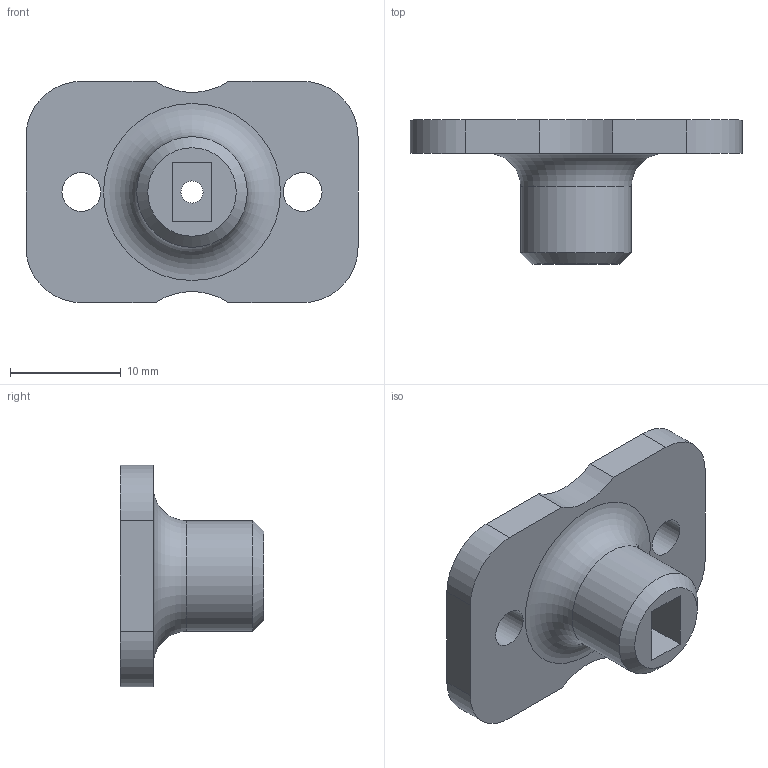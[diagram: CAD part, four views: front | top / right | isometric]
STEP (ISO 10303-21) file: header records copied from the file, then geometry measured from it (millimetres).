
FILE_DESCRIPTION(/* description */ (''),/* implementation_level */ '2;1');
FILE_NAME(/* name */ 'C:/Users/Ulises/Desktop/T1/mecanica_cad/Acople_motor_DC.step',/* time_stamp */ '2020-10-16T01:34:13-03:00',/* author */ (''),/* organization */ (''),/* preprocessor_version */ 'ST-DEVELOPER v18.1',/* originating_system */ 'Autodesk Translation Framework v9.3.0.1241',/* authorisation */ '');
FILE_SCHEMA (('AUTOMOTIVE_DESIGN { 1 0 10303 214 3 1 1 }'));
Length unit declared in the file: millimetre
Products named in the file (1): Acople motor DC
Bounding box: 30 x 13 x 20 mm (x, y, z)
Volume: 2282.3 mm3; surface area: 1893 mm2
Topology: 1 solids, 1 shells, 28 faces, 68 edges, 45 vertices
Faces by surface type: plane 15, cylinder 11, cone 1, torus 1
Full cylindrical faces by diameter (mm): 2 x1, 3.5 x2, 5.5 x1, 10 x1
Entity records: 882 total; most frequent: DIRECTION 152, CARTESIAN_POINT 142, ORIENTED_EDGE 136, EDGE_CURVE 68, AXIS2_PLACEMENT_3D 55, VERTEX_POINT 45, LINE 42, VECTOR 42
